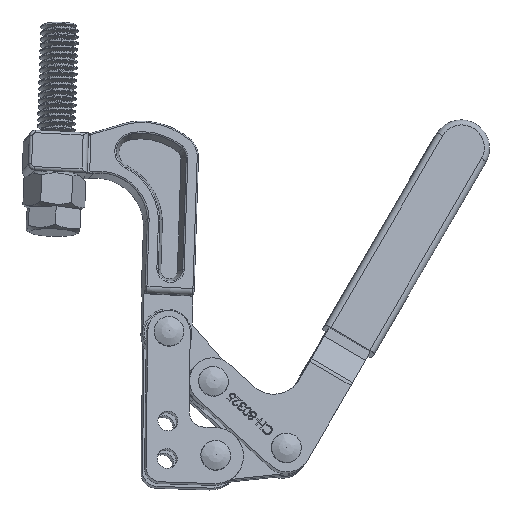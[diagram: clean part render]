
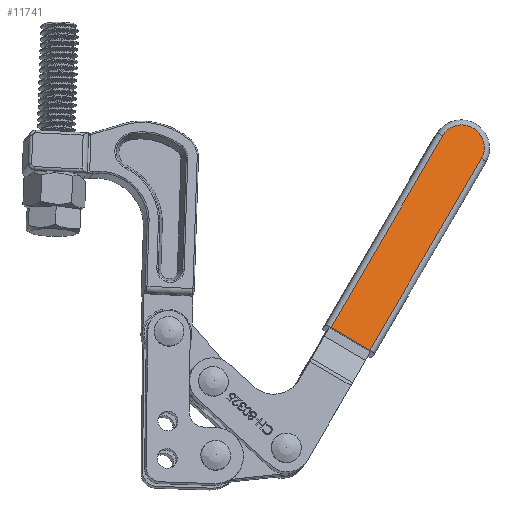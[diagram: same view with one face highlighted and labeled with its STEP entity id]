
A CAD part, top view. The second image highlights one B-rep face of the part: STEP entity #11741.
In plain terms, the highlighted planar face has unit normal (0.12, 0.153, 0.981) as drawn and (0, 0, 1) by its records, which use the part's own axes.
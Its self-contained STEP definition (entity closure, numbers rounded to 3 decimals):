
#416=PLANE('',#12634);
#806=FACE_OUTER_BOUND('',#1491,.T.);
#1491=EDGE_LOOP('',(#8441,#8442,#8443,#8444));
#2166=CIRCLE('',#12624,7.5);
#3136=LINE('',#21852,#4010);
#3149=LINE('',#21880,#4023);
#3150=LINE('',#21881,#4024);
#4010=VECTOR('',#13721,1000.);
#4023=VECTOR('',#13748,1000.);
#4024=VECTOR('',#13749,1000.);
#4983=VERTEX_POINT('',#21840);
#4984=VERTEX_POINT('',#21842);
#4987=VERTEX_POINT('',#21849);
#4988=VERTEX_POINT('',#21851);
#6289=EDGE_CURVE('',#4984,#4983,#2166,.T.);
#6293=EDGE_CURVE('',#4988,#4987,#3136,.T.);
#6309=EDGE_CURVE('',#4987,#4984,#3149,.T.);
#6310=EDGE_CURVE('',#4983,#4988,#3150,.T.);
#8441=ORIENTED_EDGE('',*,*,#6293,.T.);
#8442=ORIENTED_EDGE('',*,*,#6309,.T.);
#8443=ORIENTED_EDGE('',*,*,#6289,.T.);
#8444=ORIENTED_EDGE('',*,*,#6310,.T.);
#11741=ADVANCED_FACE('',(#806),#416,.T.);
#12624=AXIS2_PLACEMENT_3D('',#21843,#13712,#13713);
#12634=AXIS2_PLACEMENT_3D('',#21879,#13746,#13747);
#13712=DIRECTION('center_axis',(0.,0.,1.));
#13713=DIRECTION('ref_axis',(1.,0.,0.));
#13721=DIRECTION('',(0.,-1.,0.));
#13746=DIRECTION('center_axis',(0.,0.,1.));
#13747=DIRECTION('ref_axis',(1.,0.,0.));
#13748=DIRECTION('',(1.,0.,0.));
#13749=DIRECTION('',(-1.,0.,0.));
#21840=CARTESIAN_POINT('',(0.,7.5,11.));
#21842=CARTESIAN_POINT('',(0.,-7.5,11.));
#21843=CARTESIAN_POINT('Origin',(0.,0.,11.));
#21849=CARTESIAN_POINT('',(-75.697,-7.5,11.));
#21851=CARTESIAN_POINT('',(-75.697,7.5,11.));
#21852=CARTESIAN_POINT('',(-75.697,-9.5,11.));
#21879=CARTESIAN_POINT('Origin',(0.,0.,11.));
#21880=CARTESIAN_POINT('',(0.,-7.5,11.));
#21881=CARTESIAN_POINT('',(-75.697,7.5,11.));
